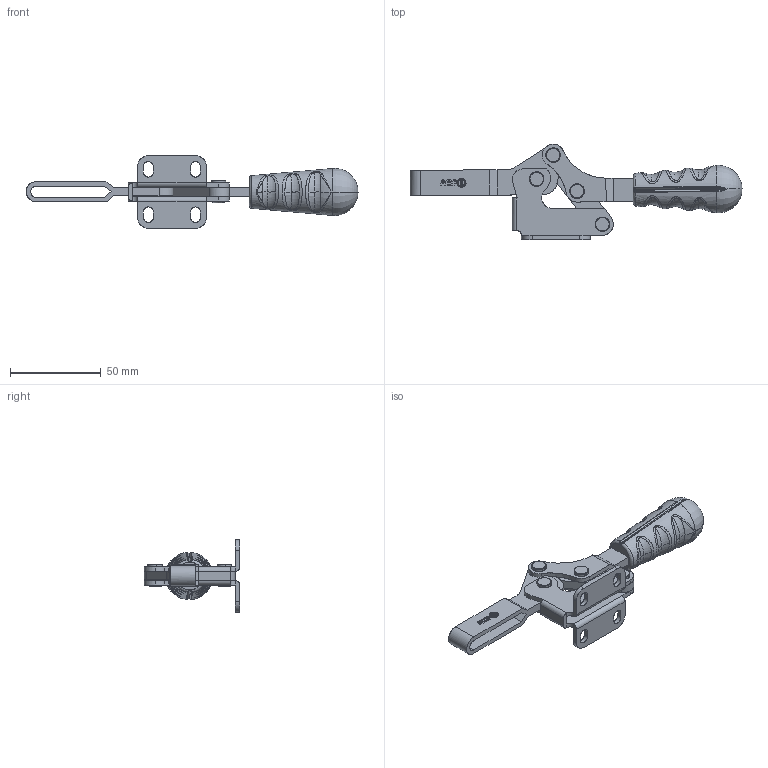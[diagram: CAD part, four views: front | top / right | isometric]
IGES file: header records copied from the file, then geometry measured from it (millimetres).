
Start section: Comment
Global section: file name: 21502bass.igs; native system:  By Spatial Corp.; preprocessor: XPlus PS/IGES 3.0; author: Author; organization: Title; date: 20050217.081056; units: inch
Bounding box: 183.08 x 52.63 x 40 mm (x, y, z)
Surface area: 28140.9 mm2 (no closed solid volume)
Topology: 0 solids, 0 shells, 395 faces, 1985 edges, 1974 vertices
Faces by surface type: revolution 193, extrusion 156, bspline 46
